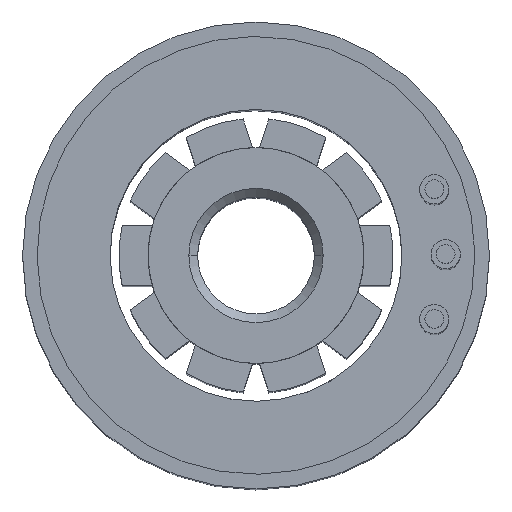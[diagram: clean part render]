
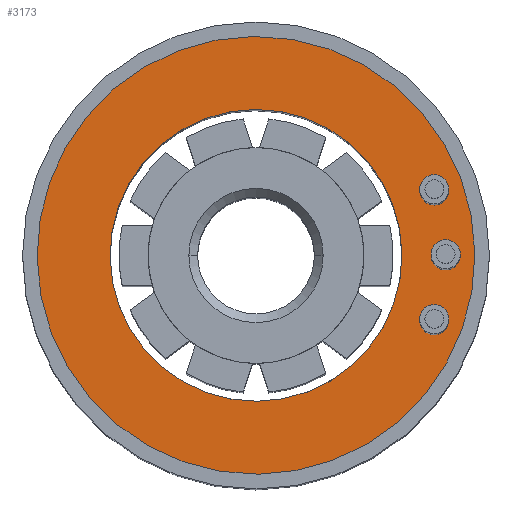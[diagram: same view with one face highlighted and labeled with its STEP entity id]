
A CAD part, top view. The second image highlights one B-rep face of the part: STEP entity #3173.
In plain terms, the highlighted planar face has unit normal (0, 0, 1).
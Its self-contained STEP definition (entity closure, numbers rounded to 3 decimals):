
#230 = FACE_OUTER_BOUND ( 'NONE', #2933, .T. ) ;
#255 = EDGE_CURVE ( 'NONE', #2492, #1083, #2696, .T. ) ;
#281 = EDGE_CURVE ( 'NONE', #6117, #2655, #847, .T. ) ;
#283 = DIRECTION ( 'NONE',  ( 1., 0., 0. ) ) ;
#452 = ORIENTED_EDGE ( 'NONE', *, *, #5409, .T. ) ;
#779 = DIRECTION ( 'NONE',  ( 0., 0., 1. ) ) ;
#847 = CIRCLE ( 'NONE', #1058, 5. ) ;
#877 = CARTESIAN_POINT ( 'NONE',  ( 0., 0., 25.2 ) ) ;
#881 = AXIS2_PLACEMENT_3D ( 'NONE', #4672, #5665, #4344 ) ;
#907 = FACE_BOUND ( 'NONE', #5638, .T. ) ;
#1058 = AXIS2_PLACEMENT_3D ( 'NONE', #2531, #2602, #2565 ) ;
#1083 = VERTEX_POINT ( 'NONE', #2298 ) ;
#1578 = AXIS2_PLACEMENT_3D ( 'NONE', #6141, #779, #5116 ) ;
#1660 = EDGE_CURVE ( 'NONE', #2655, #6117, #6309, .T. ) ;
#1673 = CARTESIAN_POINT ( 'NONE',  ( 7.5, 0., 25.2 ) ) ;
#2055 = ORIENTED_EDGE ( 'NONE', *, *, #281, .F. ) ;
#2116 = ORIENTED_EDGE ( 'NONE', *, *, #255, .T. ) ;
#2291 = DIRECTION ( 'NONE',  ( 0., 0., 1. ) ) ;
#2298 = CARTESIAN_POINT ( 'NONE',  ( -7.5, 0., 25.2 ) ) ;
#2492 = VERTEX_POINT ( 'NONE', #1673 ) ;
#2531 = CARTESIAN_POINT ( 'NONE',  ( 0., 0., 25.2 ) ) ;
#2565 = DIRECTION ( 'NONE',  ( 1., 0., 0. ) ) ;
#2602 = DIRECTION ( 'NONE',  ( 0., 0., 1. ) ) ;
#2614 = CARTESIAN_POINT ( 'NONE',  ( 0., 0., 25.2 ) ) ;
#2655 = VERTEX_POINT ( 'NONE', #2720 ) ;
#2686 = AXIS2_PLACEMENT_3D ( 'NONE', #2614, #4601, #4569 ) ;
#2696 = CIRCLE ( 'NONE', #1578, 7.5 ) ;
#2720 = CARTESIAN_POINT ( 'NONE',  ( 5., 0., 25.2 ) ) ;
#2809 = AXIS2_PLACEMENT_3D ( 'NONE', #877, #2291, #283 ) ;
#2858 = PLANE ( 'NONE',  #881 ) ;
#2933 = EDGE_LOOP ( 'NONE', ( #452, #2116 ) ) ;
#3173 = ADVANCED_FACE ( 'NONE', ( #230, #907 ), #2858, .T. ) ;
#4344 = DIRECTION ( 'NONE',  ( 1., 0., 0. ) ) ;
#4528 = CIRCLE ( 'NONE', #2686, 7.5 ) ;
#4569 = DIRECTION ( 'NONE',  ( 1., 0., 0. ) ) ;
#4601 = DIRECTION ( 'NONE',  ( 0., 0., 1. ) ) ;
#4672 = CARTESIAN_POINT ( 'NONE',  ( 0., 0., 25.2 ) ) ;
#5116 = DIRECTION ( 'NONE',  ( 1., 0., 0. ) ) ;
#5409 = EDGE_CURVE ( 'NONE', #1083, #2492, #4528, .T. ) ;
#5534 = ORIENTED_EDGE ( 'NONE', *, *, #1660, .F. ) ;
#5638 = EDGE_LOOP ( 'NONE', ( #2055, #5534 ) ) ;
#5665 = DIRECTION ( 'NONE',  ( 0., 0., 1. ) ) ;
#5746 = CARTESIAN_POINT ( 'NONE',  ( -5., 0., 25.2 ) ) ;
#6117 = VERTEX_POINT ( 'NONE', #5746 ) ;
#6141 = CARTESIAN_POINT ( 'NONE',  ( 0., 0., 25.2 ) ) ;
#6309 = CIRCLE ( 'NONE', #2809, 5. ) ;
